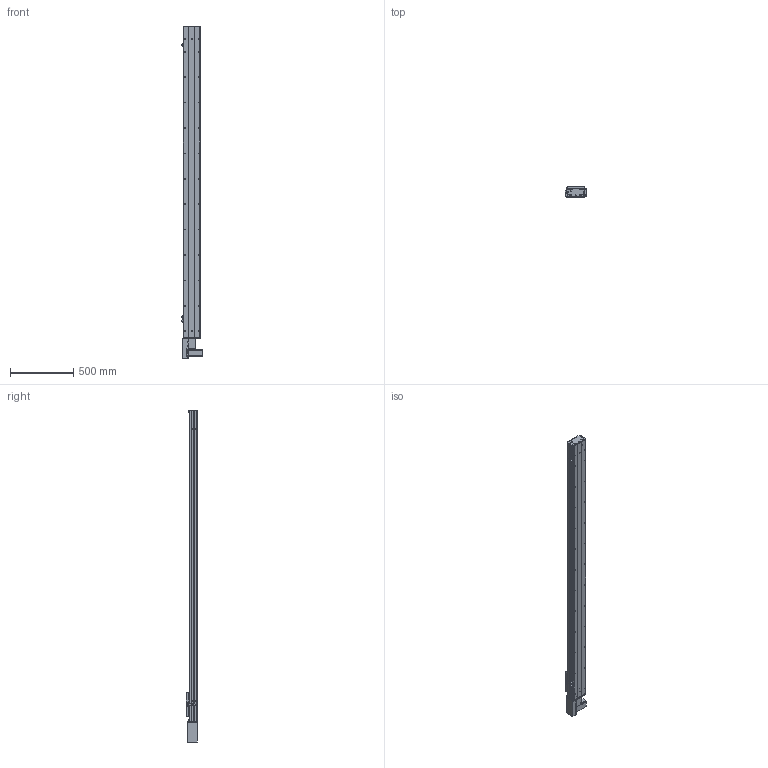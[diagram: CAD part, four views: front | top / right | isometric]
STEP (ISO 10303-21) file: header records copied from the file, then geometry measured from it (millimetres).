
FILE_DESCRIPTION (( 'STEP AP203' ), '1' );
FILE_NAME ('Y135CB-D90-S2150-BR-P400W.STEP', '2020-02-18T02:57:35', ( '微软用户' ), ( '微软中国' ), 'SwSTEP 2.0', 'SolidWorks 2017', '' );
FILE_SCHEMA (( 'CONFIG_CONTROL_DESIGN' ));
Length unit declared in the file: millimetre
Products named in the file (18): 135CB--詩湍-CE; Y10B-耜蚾蟀諉啣----; Y100-135俋离換覜ん--; Y俋欶BR----; Y135C-陔俋离換覜結え-; 0B-埴倛裔啣; 5C--俋欶; 0B-源倛裔啣; C-雄赽釱--; 0B-萇儂楊擘啣; Y10B--々湍喘謫眊--666; san松下电机400不带刹车----; Y135CB-耜裔; Y135CB-D90-S2150-BR-P400W; 5CB --掛极耜裔啣-; 135CB---遴掛极.-; C-詩湍揤踡え-陔; 35CB---喘謫眊楊擘啣
Assembly tree (21 placements, depth 2):
  Y135CB-D90-S2150-BR-P400W
    Y135CB-耜裔
    135CB---遴掛极.-
    35CB---喘謫眊楊擘啣
    Y10B-耜蚾蟀諉啣----
    Y俋欶BR----
    0B-埴倛裔啣
    0B-源倛裔啣
    0B-萇儂楊擘啣
    san松下电机400不带刹车----
    5CB --掛极耜裔啣-  x2
    C-詩湍揤踡え-陔  x2
    135CB--詩湍-CE
    Y100-135俋离換覜ん--  x3
    Y135C-陔俋离換覜結え-
    5C--俋欶
    C-雄赽釱--
    Y10B--々湍喘謫眊--666
Bounding box: 167.5 x 91 x 2614.5 mm (x, y, z)
Volume: 7373693.3 mm3; surface area: 2916252 mm2
Topology: 21 solids, 21 shells, 969 faces, 2635 edges, 1746 vertices
Faces by surface type: cylinder 495, plane 458, cone 16
Entity records: 30657 total; most frequent: CARTESIAN_POINT 5180, DIRECTION 5075, ORIENTED_EDGE 4746, EDGE_CURVE 2373, AXIS2_PLACEMENT_3D 1857, VERTEX_POINT 1574, LINE 1361, VECTOR 1361
